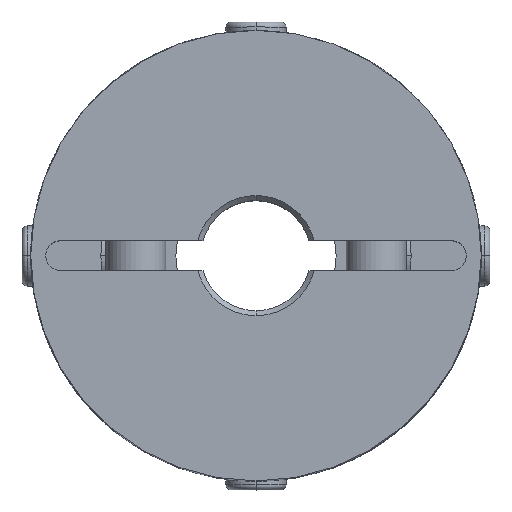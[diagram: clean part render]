
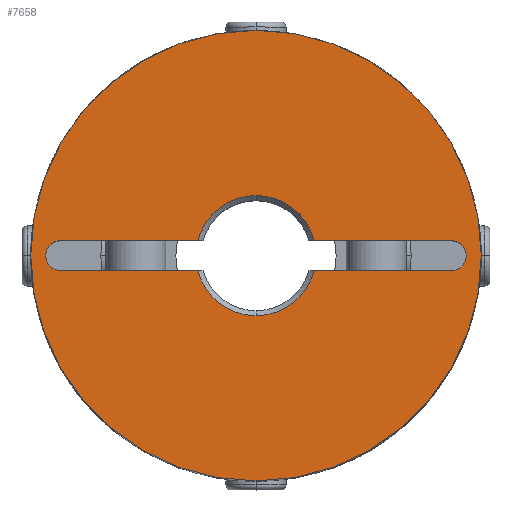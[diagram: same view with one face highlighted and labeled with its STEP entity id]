
A CAD part, top view. The second image highlights one B-rep face of the part: STEP entity #7658.
In plain terms, the highlighted planar face has unit normal (0, 0, 1).
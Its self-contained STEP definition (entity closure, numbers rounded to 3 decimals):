
#979=CARTESIAN_POINT('',(0.,22.5,22.5));
#980=VERTEX_POINT('',#979);
#987=CARTESIAN_POINT('',(0.,-22.5,22.5));
#988=VERTEX_POINT('',#987);
#989=CARTESIAN_POINT('',(0.0,0.0,22.5));
#990=DIRECTION('',(0.0,0.0,-1.0));
#991=DIRECTION('',(0.0,-1.0,0.0));
#992=AXIS2_PLACEMENT_3D('',#989,#990,#991);
#993=CIRCLE('',#992,22.5);
#994=EDGE_CURVE('',#980,#988,#993,.T.);
#1309=CARTESIAN_POINT('',(20.561,1.061,22.5));
#1310=VERTEX_POINT('',#1309);
#1326=CARTESIAN_POINT('',(19.5,-1.5,22.5));
#1327=VERTEX_POINT('',#1326);
#1334=CARTESIAN_POINT('',(19.5,0.,22.5));
#1335=DIRECTION('',(0.0,0.0,1.0));
#1336=DIRECTION('',(0.707,-0.707,0.0));
#1337=AXIS2_PLACEMENT_3D('',#1334,#1335,#1336);
#1338=CIRCLE('',#1337,1.5);
#1339=EDGE_CURVE('',#1327,#1310,#1338,.T.);
#1351=CARTESIAN_POINT('',(-20.561,-1.061,22.5));
#1352=VERTEX_POINT('',#1351);
#1368=CARTESIAN_POINT('',(-19.5,1.5,22.5));
#1369=VERTEX_POINT('',#1368);
#1376=CARTESIAN_POINT('',(-19.5,0.,22.5));
#1377=DIRECTION('',(0.0,0.0,1.0));
#1378=DIRECTION('',(-0.707,0.707,0.0));
#1379=AXIS2_PLACEMENT_3D('',#1376,#1377,#1378);
#1380=CIRCLE('',#1379,1.5);
#1381=EDGE_CURVE('',#1369,#1352,#1380,.T.);
#2105=CARTESIAN_POINT('',(0.,6.0,22.5));
#2106=VERTEX_POINT('',#2105);
#2114=CARTESIAN_POINT('',(5.809,1.5,22.5));
#2115=VERTEX_POINT('',#2114);
#2129=CARTESIAN_POINT('',(0.0,0.0,22.5));
#2130=DIRECTION('',(0.0,0.0,1.0));
#2131=DIRECTION('',(0.0,1.0,0.0));
#2132=AXIS2_PLACEMENT_3D('',#2129,#2130,#2131);
#2133=CIRCLE('',#2132,6.0);
#2134=EDGE_CURVE('',#2115,#2106,#2133,.T.);
#2144=CARTESIAN_POINT('',(0.,-6.0,22.5));
#2145=VERTEX_POINT('',#2144);
#2161=CARTESIAN_POINT('',(-5.809,-1.5,22.5));
#2162=VERTEX_POINT('',#2161);
#2176=CARTESIAN_POINT('',(0.0,0.0,22.5));
#2177=DIRECTION('',(0.0,0.0,1.0));
#2178=DIRECTION('',(0.0,-1.0,0.0));
#2179=AXIS2_PLACEMENT_3D('',#2176,#2177,#2178);
#2180=CIRCLE('',#2179,6.0);
#2181=EDGE_CURVE('',#2162,#2145,#2180,.T.);
#7396=CARTESIAN_POINT('',(19.5,1.5,22.5));
#7397=VERTEX_POINT('',#7396);
#7404=CARTESIAN_POINT('',(5.809,1.5,22.5));
#7405=DIRECTION('',(1.0,0.0,0.0));
#7406=VECTOR('',#7405,13.691);
#7407=LINE('',#7404,#7406);
#7408=EDGE_CURVE('',#2115,#7397,#7407,.T.);
#7543=CARTESIAN_POINT('',(5.809,-1.5,22.5));
#7544=VERTEX_POINT('',#7543);
#7558=CARTESIAN_POINT('',(19.5,-1.5,22.5));
#7559=DIRECTION('',(-1.0,0.0,0.0));
#7560=VECTOR('',#7559,13.691);
#7561=LINE('',#7558,#7560);
#7562=EDGE_CURVE('',#1327,#7544,#7561,.T.);
#7585=CARTESIAN_POINT('',(0.0,0.0,22.5));
#7586=DIRECTION('',(0.0,0.0,1.0));
#7587=DIRECTION('',(0.0,-1.0,0.0));
#7588=AXIS2_PLACEMENT_3D('',#7585,#7586,#7587);
#7589=CIRCLE('',#7588,6.0);
#7590=EDGE_CURVE('',#2145,#7544,#7589,.T.);
#7597=CARTESIAN_POINT('',(0.,-2.045,22.5));
#7598=DIRECTION('',(0.0,0.0,1.0));
#7599=DIRECTION('',(0.0,-1.0,0.0));
#7600=AXIS2_PLACEMENT_3D('',#7597,#7598,#7599);
#7601=PLANE('',#7600);
#7602=CARTESIAN_POINT('',(0.0,0.0,22.5));
#7603=DIRECTION('',(0.0,0.0,-1.0));
#7604=DIRECTION('',(0.0,-1.0,0.0));
#7605=AXIS2_PLACEMENT_3D('',#7602,#7603,#7604);
#7606=CIRCLE('',#7605,22.5);
#7607=EDGE_CURVE('',#988,#980,#7606,.T.);
#7608=ORIENTED_EDGE('',*,*,#7607,.F.);
#7609=ORIENTED_EDGE('',*,*,#994,.F.);
#7610=EDGE_LOOP('',(#7608,#7609));
#7611=FACE_OUTER_BOUND('',#7610,.T.);
#7612=ORIENTED_EDGE('',*,*,#2181,.F.);
#7613=CARTESIAN_POINT('',(-19.5,-1.5,22.5));
#7614=VERTEX_POINT('',#7613);
#7615=CARTESIAN_POINT('',(-5.809,-1.5,22.5));
#7616=DIRECTION('',(-1.0,0.0,0.0));
#7617=VECTOR('',#7616,13.691);
#7618=LINE('',#7615,#7617);
#7619=EDGE_CURVE('',#2162,#7614,#7618,.T.);
#7620=ORIENTED_EDGE('',*,*,#7619,.T.);
#7621=CARTESIAN_POINT('',(-19.5,0.,22.5));
#7622=DIRECTION('',(0.0,0.0,1.0));
#7623=DIRECTION('',(-0.707,0.707,0.0));
#7624=AXIS2_PLACEMENT_3D('',#7621,#7622,#7623);
#7625=CIRCLE('',#7624,1.5);
#7626=EDGE_CURVE('',#1352,#7614,#7625,.T.);
#7627=ORIENTED_EDGE('',*,*,#7626,.F.);
#7628=ORIENTED_EDGE('',*,*,#1381,.F.);
#7629=CARTESIAN_POINT('',(-5.809,1.5,22.5));
#7630=VERTEX_POINT('',#7629);
#7631=CARTESIAN_POINT('',(-19.5,1.5,22.5));
#7632=DIRECTION('',(1.0,0.0,0.0));
#7633=VECTOR('',#7632,13.691);
#7634=LINE('',#7631,#7633);
#7635=EDGE_CURVE('',#1369,#7630,#7634,.T.);
#7636=ORIENTED_EDGE('',*,*,#7635,.T.);
#7637=CARTESIAN_POINT('',(0.0,0.0,22.5));
#7638=DIRECTION('',(0.0,0.0,1.0));
#7639=DIRECTION('',(0.0,1.0,0.0));
#7640=AXIS2_PLACEMENT_3D('',#7637,#7638,#7639);
#7641=CIRCLE('',#7640,6.0);
#7642=EDGE_CURVE('',#2106,#7630,#7641,.T.);
#7643=ORIENTED_EDGE('',*,*,#7642,.F.);
#7644=ORIENTED_EDGE('',*,*,#2134,.F.);
#7645=ORIENTED_EDGE('',*,*,#7408,.T.);
#7646=CARTESIAN_POINT('',(19.5,0.,22.5));
#7647=DIRECTION('',(0.0,0.0,1.0));
#7648=DIRECTION('',(0.707,-0.707,0.0));
#7649=AXIS2_PLACEMENT_3D('',#7646,#7647,#7648);
#7650=CIRCLE('',#7649,1.5);
#7651=EDGE_CURVE('',#1310,#7397,#7650,.T.);
#7652=ORIENTED_EDGE('',*,*,#7651,.F.);
#7653=ORIENTED_EDGE('',*,*,#1339,.F.);
#7654=ORIENTED_EDGE('',*,*,#7562,.T.);
#7655=ORIENTED_EDGE('',*,*,#7590,.F.);
#7656=EDGE_LOOP('',(#7612,#7620,#7627,#7628,#7636,#7643,#7644,#7645,#7652,#7653,#7654,#7655));
#7657=FACE_BOUND('',#7656,.T.);
#7658=ADVANCED_FACE('',(#7611,#7657),#7601,.T.);
